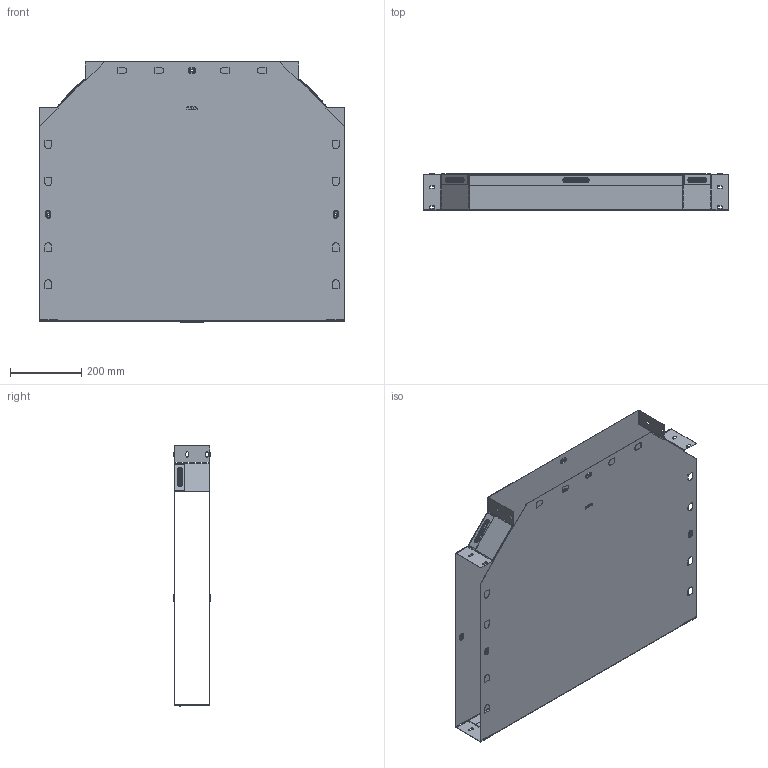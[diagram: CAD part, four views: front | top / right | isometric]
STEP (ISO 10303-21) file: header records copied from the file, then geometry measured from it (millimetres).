
FILE_DESCRIPTION (( 'STEP AP214' ), '1' );
FILE_NAME ('t10060008_捘.STEP', '2019-06-10T08:07:43', ( '砐錪賧瘔蠈錪 Windows' ), ( '' ), 'SwSTEP 2.0', 'SolidWorks 2018', '' );
FILE_SCHEMA (( 'AUTOMOTIVE_DESIGN' ));
Length unit declared in the file: millimetre
Products named in the file (1): t10060008_捘
Bounding box: 856.4 x 103.8 x 731 mm (x, y, z)
Volume: 1067715.1 mm3; surface area: 2677307.8 mm2
Topology: 2 solids, 2 shells, 832 faces, 2436 edges, 1588 vertices
Faces by surface type: plane 478, cylinder 240, torus 96, bspline 18
Entity records: 28780 total; most frequent: CARTESIAN_POINT 5952, ORIENTED_EDGE 4872, DIRECTION 4654, EDGE_CURVE 2436, LINE 1776, VECTOR 1776, VERTEX_POINT 1588, AXIS2_PLACEMENT_3D 1439
